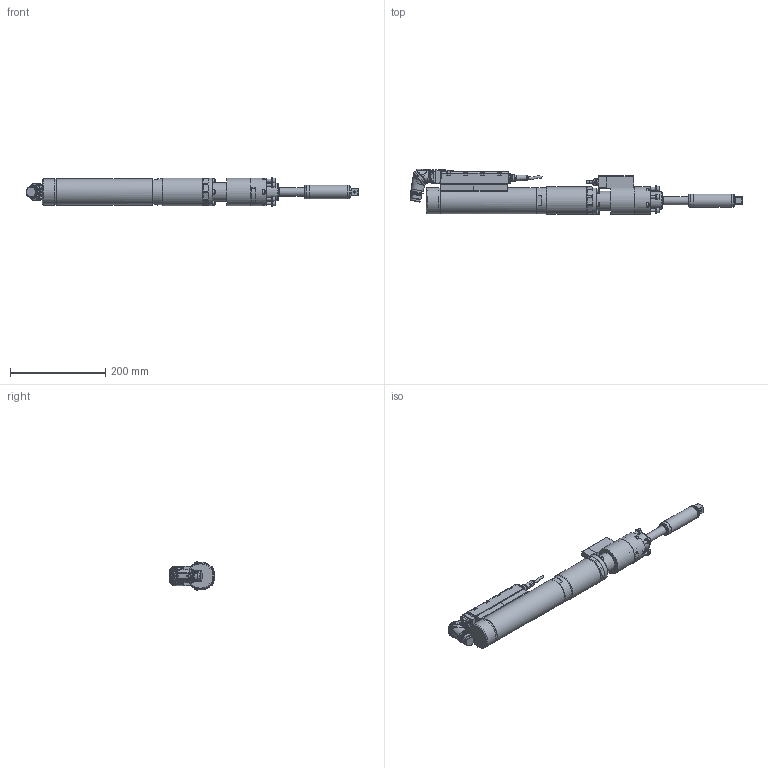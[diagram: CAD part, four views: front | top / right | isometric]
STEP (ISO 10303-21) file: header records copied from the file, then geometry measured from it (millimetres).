
FILE_DESCRIPTION (( 'STEP AP214' ), '1' );
FILE_NAME ('70082424_ESX222DRX270AZX250.STEP', '2016-11-14T09:11:34', ( 'admin' ), ( '' ), 'SwSTEP 2.0', 'SolidWorks 2014', '' );
FILE_SCHEMA (( 'AUTOMOTIVE_DESIGN' ));
Length unit declared in the file: millimetre
Products named in the file (11): 7004768_3; 70082371; 70082323; 70082306_ESX222_Standard_Winkel; 70082293_2; 70057493_Standard_winkel; 70057493_4; 70057493_3; 70057493_2; 70082306; 70082424_ESX222DRX270AZX250
Assembly tree (10 placements, depth 4):
  70082424_ESX222DRX270AZX250
    70082306_ESX222_Standard_Winkel
      70082306
      70057493_Standard_winkel
        70057493_2
        70057493_3
        70057493_4
      70082293_2
    70082323
    70082371
    7004768_3
Bounding box: 698.56 x 95.64 x 59.55 mm (x, y, z)
Volume: 1538097 mm3; surface area: 197951.4 mm2
Topology: 12 solids, 13 shells, 2435 faces, 6309 edges, 4090 vertices
Faces by surface type: plane 1202, cylinder 650, bspline 263, cone 248, torus 66, sphere 6
Full cylindrical faces by diameter (mm): 0.5 x7, 0.57 x14, 1.6 x3, 2 x3, 3 x4, 4.2 x11, 4.5 x1, 4.9 x3, 5 x32, 5.5 x12, 6 x6, 8.459 x2, 8.5 x10, 9 x12, 10 x5, 11.08 x1, 12 x5, 12.3 x1, 14 x2, 14.5 x2, 17.3 x1, 17.4 x1, 17.5 x1, 20 x2, 21.15 x1, 21.5 x1, 21.7 x1, 22 x1, 22.3 x1, 24 x1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
Entity records: 85659 total; most frequent: CARTESIAN_POINT 28691, ORIENTED_EDGE 11576, DIRECTION 10246, EDGE_CURVE 5788, VERTEX_POINT 3929, AXIS2_PLACEMENT_3D 3795, EDGE_LOOP 3001, FACE_OUTER_BOUND 2661
